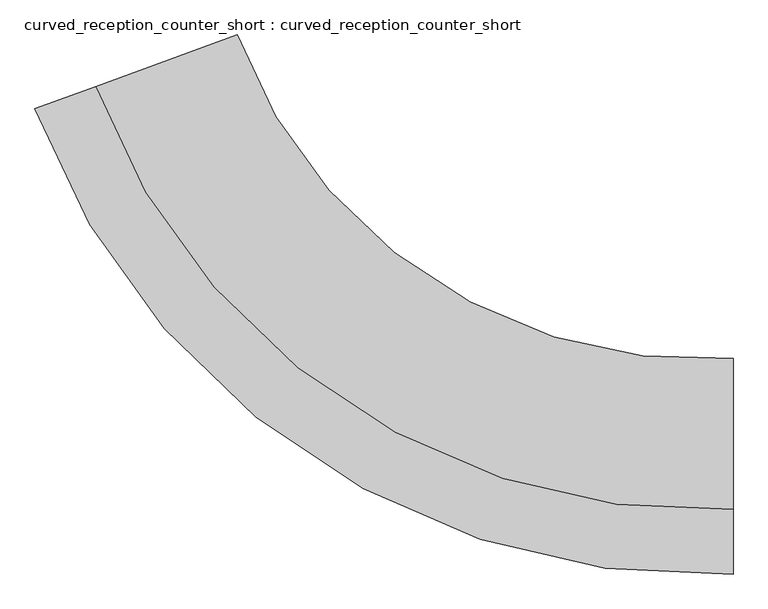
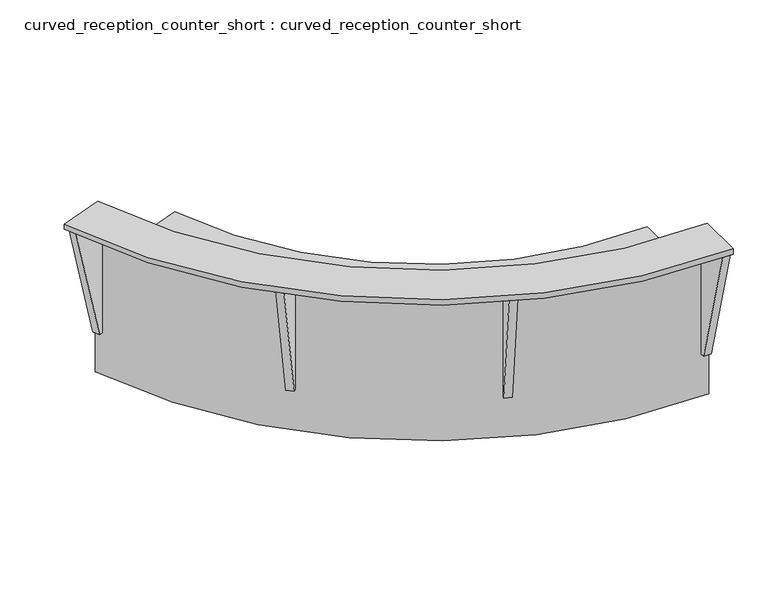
"""IFC4 building model written with IfcOpenShell, lengths in millimetres: furniture geometry, curved_reception_counter_short : curved_reception_counter_short."""

from ifc_helpers import new_model, si_unit, point, frame, frame_2d, origin, origin_with_axes, place, context, project, spatial, polyline, circle_curve, trimmed, segment, composite_curve, outline, extrude, source, transform, mapped, element, save


def curved_reception_counter_short_curved_reception_counter_620d5c6e(model_context):
    return source(origin(), model_context, "Body", "SweptSolid", [
        extrude(outline(polyline([(-12.7, 0.0), (12.7, 0.0), (12.7, -876.3), (-247.65, -876.3), (-12.7, 0.0)])), frame((-914.6479584, 1357.8453269, 304.8), z_axis=(-0.3826834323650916, 0.9238795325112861, 0.0), x_axis=(0.9238795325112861, 0.3826834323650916, 0.0)), (0.0, 0.0, 1.0), 50.8),
        extrude(outline(polyline([(-598.9502471, 304.8), (-624.3502471, 304.8), (-859.3002471, 1181.1), (-598.9502471, 1181.1), (-598.9502471, 304.8)])), frame((2054.0997209, 0.0, 0.0), z_axis=(1.0, 0.0, 0.0), x_axis=(0.0, 1.0, 0.0)), (0.0, 0.0, 1.0), 50.8),
        extrude(outline(polyline([(-12.6999999, 0.0), (12.7, 0.0), (12.7, -876.3), (-247.65, -876.3), (-12.6999999, 0.0)])), frame((867.7181845, -416.2023779, 304.8), z_axis=(-0.9238795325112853, 0.38268343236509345, 0.0), x_axis=(0.38268343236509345, 0.9238795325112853, 0.0)), (0.0, 0.0, 1.0), 50.8),
        extrude(outline(polyline([(-12.7, 0.0), (12.7, 0.0), (12.7, -876.3), (-247.6499999, -876.3), (-12.7, 0.0)])), frame((-213.8516802, 281.6714886, 304.8), z_axis=(-0.7071067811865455, 0.7071067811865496, 0.0), x_axis=(0.7071067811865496, 0.7071067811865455, 0.0)), (0.0, 0.0, 1.0), 50.8),
        extrude(outline(composite_curve([segment(trimmed(circle_curve(frame_2d((1958.5624989, 2464.6066922)), 3048.0), [point((-903.8583025, 1417.3000725))], [point((2104.8997209, -579.8783903))], True, "CARTESIAN"), True, "CONTINUOUS"), segment(polyline([(2104.8997209, -579.8783903), (2104.8997209, -598.9502471)]), True, "CONTINUOUS"), segment(trimmed(circle_curve(frame_2d((1958.5624989, 2464.6066922)), 3067.05), [point((2104.8997209, -598.9502471))], [point((-921.7484325, 1410.7544061))], False, "CARTESIAN"), True, "CONTINUOUS"), segment(polyline([(-921.7484325, 1410.7544061), (-903.8583025, 1417.3000725)]), True, "CONTINUOUS")], self_intersect=False)), origin_with_axes(), (0.0, 0.0, 1.0), 1181.1),
        extrude(outline(composite_curve([segment(trimmed(circle_curve(frame_2d((1958.5624989, 2464.6066922)), 3048.0), [point((2104.8997209, -579.8783903))], [point((-903.8583025, 1417.3000725))], False, "CARTESIAN"), True, "CONTINUOUS"), segment(polyline([(-903.8583025, 1417.3000725), (-235.9601155, 1661.6716171)]), True, "CONTINUOUS"), segment(trimmed(circle_curve(frame_2d((1958.5624989, 2464.6066922)), 2336.8), [point((-235.9601155, 1661.6716171))], [point((2104.8997209, 132.3932248))], True, "CARTESIAN"), True, "CONTINUOUS"), segment(polyline([(2104.8997209, 132.3932248), (2104.8997209, -579.8783903)]), True, "CONTINUOUS")], self_intersect=False)), frame((0.0, 0.0, 723.9), z_axis=(0.0, 0.0, 1.0), x_axis=(1.0, 0.0, 0.0)), (0.0, 0.0, 1.0), 38.1),
        extrude(outline(composite_curve([segment(polyline([(2104.8997209, -579.8783903), (2104.8997209, -884.9982483)]), True, "CONTINUOUS"), segment(trimmed(circle_curve(frame_2d((1958.5624989, 2464.6066922)), 3352.8), [point((2104.8997209, -884.9982483))], [point((-1190.1003827, 1312.5694106))], False, "CARTESIAN"), True, "CONTINUOUS"), segment(polyline([(-1190.1003827, 1312.5694106), (-903.8583025, 1417.3000725)]), True, "CONTINUOUS"), segment(trimmed(circle_curve(frame_2d((1958.5624989, 2464.6066922)), 3048.0), [point((-903.8583025, 1417.3000725))], [point((2104.8997209, -579.8783903))], True, "CARTESIAN"), True, "CONTINUOUS")], self_intersect=False)), frame((0.0, 0.0, 1181.1), z_axis=(0.0, 0.0, 1.0), x_axis=(1.0, 0.0, 0.0)), (0.0, 0.0, 1.0), 38.1),
    ])


if __name__ == "__main__":
    model = new_model("IFC4")
    model_context = context("Model", 3, world=origin())
    ifc_project = project(units=[si_unit("LENGTHUNIT", "METRE", prefix="MILLI")], contexts=[model_context])
    site = spatial("IfcSite", under=ifc_project)
    building = spatial("IfcBuilding", under=site)
    placement = place(None, origin())
    curved_reception_counter_short_curved_reception_counter_shape = curved_reception_counter_short_curved_reception_counter_620d5c6e(model_context)
    element("IfcFurniture", 1, ObjectType="curved_reception_counter_short : curved_reception_counter_short", at=placement, inside=building, context=model_context, shape_type="MappedRepresentation", body=[
        mapped(curved_reception_counter_short_curved_reception_counter_shape, transform((0.0, 0.0, 0.0), x_axis=(1.0, 0.0, 0.0), y_axis=(0.0, 1.0, 0.0), z_axis=(0.0, 0.0, 1.0))),
    ])
    save(model, "model.ifc")
